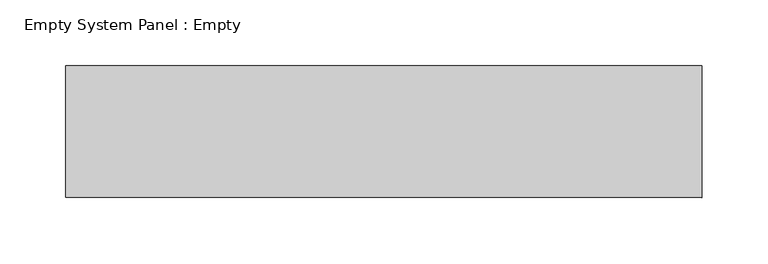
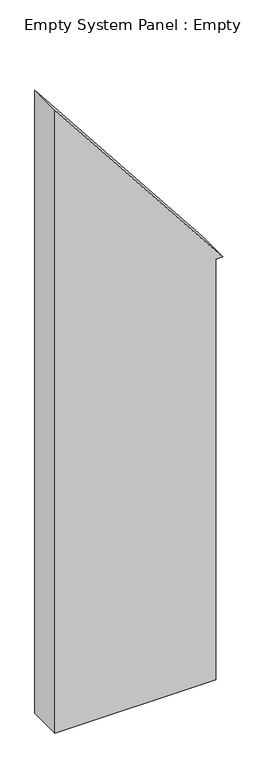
"""IFC4 building model written with IfcOpenShell, lengths in millimetres: plate geometry, Empty System Panel : Empty."""

from ifc_helpers import new_model, si_unit, frame, origin, place, context, project, spatial, polyline, outline, extrude, source, transform, mapped, element, save


def empty_system_panel_empty_000909bf(model_context):
    return source(origin(), model_context, "Body", "SweptSolid", [
        extrude(outline(polyline([(0.0, -241.7466691), (0.0, 221.7466691), (1282.363857, 221.7466691), (1282.363857, 241.7466691), (1898.0764541, -241.7466691), (0.0, -241.7466691)])), frame((0.0, -50.0, 0.0), z_axis=(0.0, 1.0, 0.0), x_axis=(0.0, 0.0, 1.0)), (0.0, 0.0, 1.0), 100.0),
    ])


if __name__ == "__main__":
    model = new_model("IFC4")
    model_context = context("Model", 3, world=origin())
    ifc_project = project(units=[si_unit("LENGTHUNIT", "METRE", prefix="MILLI")], contexts=[model_context])
    site = spatial("IfcSite", under=ifc_project)
    building = spatial("IfcBuilding", under=site)
    placement = place(None, origin())
    empty_system_panel_empty_shape = empty_system_panel_empty_000909bf(model_context)
    element("IfcPlate", 1, ObjectType="Empty System Panel : Empty", at=placement, inside=building, context=model_context, shape_type="MappedRepresentation", body=[
        mapped(empty_system_panel_empty_shape, transform((0.0, 0.0, 0.0), x_axis=(1.0, 0.0, 0.0), y_axis=(0.0, 1.0, 0.0), z_axis=(0.0, 0.0, 1.0))),
    ])
    save(model, "model.ifc")
